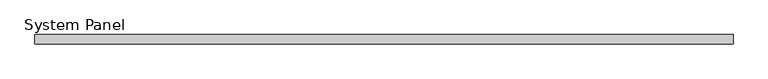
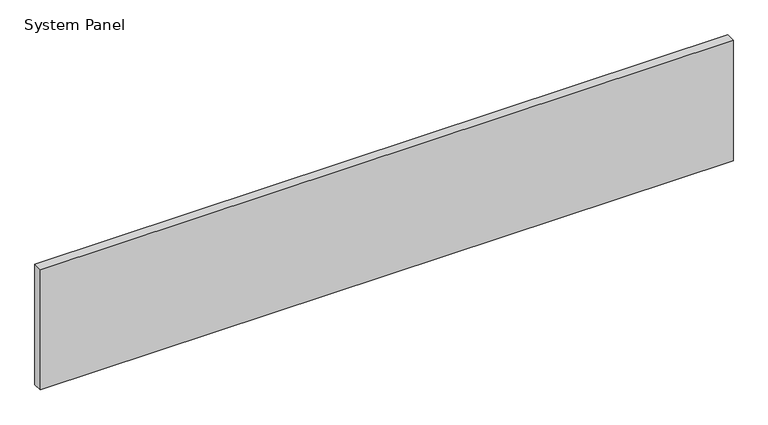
"""IFC4 building model written with IfcOpenShell, lengths in millimetres: plate geometry, System Panel : Inspire 80mm Horizontal - Plain RHEA-PIR."""

from ifc_helpers import new_model, si_unit, origin, origin_with_axes, place, context, project, spatial, polyline, outline, extrude, source, transform, mapped, element, save


def system_panel_8846c3d6(model_context):
    return source(origin(), model_context, "Body", "SweptSolid", [
        extrude(outline(polyline([(2995.0, 0.0), (-2995.0, 0.0), (-2995.0, 80.0), (2995.0, 80.0), (2995.0, 0.0)])), origin_with_axes(), (0.0, 0.0, 1.0), 1100.0),
    ])


if __name__ == "__main__":
    model = new_model("IFC4")
    model_context = context("Model", 3, world=origin())
    ifc_project = project(units=[si_unit("LENGTHUNIT", "METRE", prefix="MILLI")], contexts=[model_context])
    site = spatial("IfcSite", under=ifc_project)
    building = spatial("IfcBuilding", under=site)
    placement = place(None, origin())
    system_panel_shape = system_panel_8846c3d6(model_context)
    element("IfcPlate", 1, ObjectType="System Panel : Inspire 80mm Horizontal - Plain RHEA-PIR", at=placement, inside=building, context=model_context, shape_type="MappedRepresentation", body=[
        mapped(system_panel_shape, transform((0.0, 0.0, 0.0), x_axis=(1.0, 0.0, 0.0), y_axis=(0.0, 1.0, 0.0), z_axis=(0.0, 0.0, 1.0))),
    ])
    save(model, "model.ifc")
